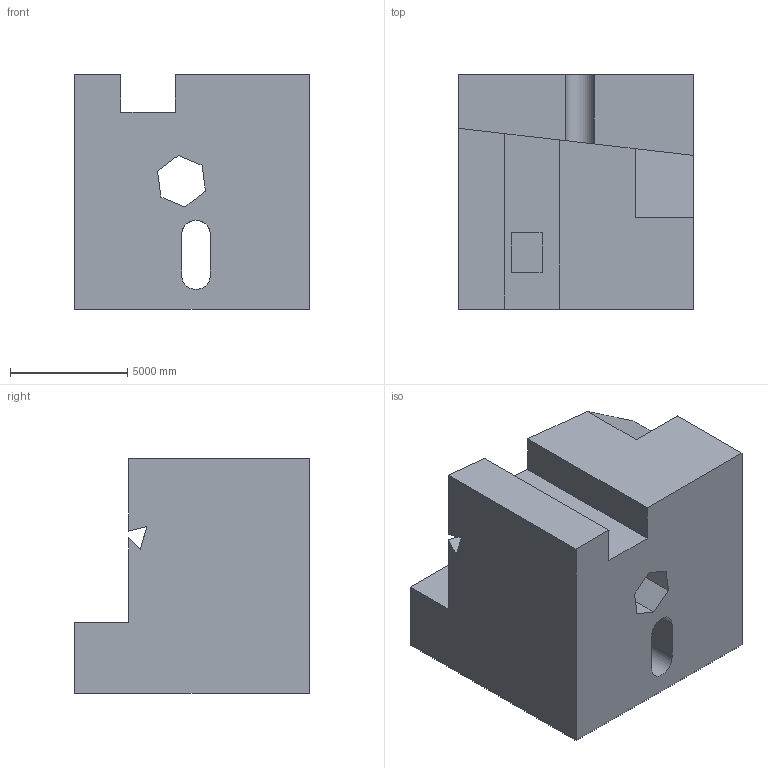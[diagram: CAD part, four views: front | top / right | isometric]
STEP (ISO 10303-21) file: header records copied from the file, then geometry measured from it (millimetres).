
FILE_DESCRIPTION (( 'STEP AP203' ), '1' );
FILE_NAME ('1677.STEP', '2022-08-19T11:38:35', ( 'user' ), ( '' ), 'SwSTEP 2.0', 'SolidWorks 2021', '' );
FILE_SCHEMA (( 'CONFIG_CONTROL_DESIGN' ));
Length unit declared in the file: centimetre
Products named in the file (1): 1677
Bounding box: 10000 x 10000 x 10000 mm (x, y, z)
Volume: 698800016742.1 mm3; surface area: 709461470.5 mm2
Topology: 1 solids, 1 shells, 35 faces, 108 edges, 72 vertices
Faces by surface type: plane 32, cylinder 3
Entity records: 1275 total; most frequent: CARTESIAN_POINT 222, ORIENTED_EDGE 216, DIRECTION 182, EDGE_CURVE 108, VECTOR 102, LINE 102, VERTEX_POINT 72, AXIS2_PLACEMENT_3D 40
